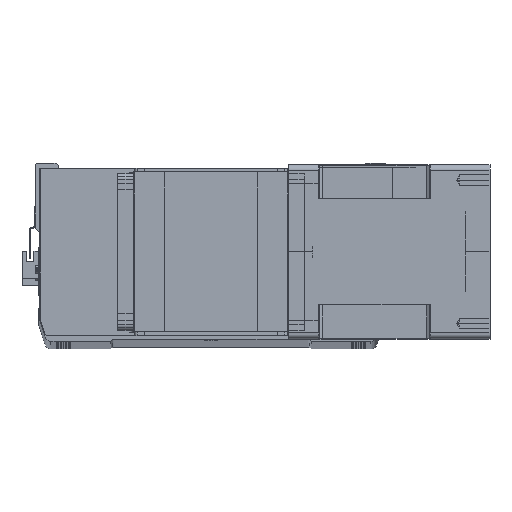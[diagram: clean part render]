
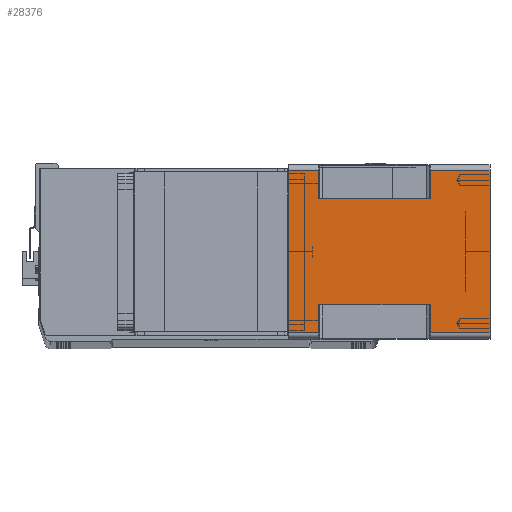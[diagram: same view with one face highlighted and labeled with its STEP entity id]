
A CAD part, top view. The second image highlights one B-rep face of the part: STEP entity #28376.
In plain terms, the highlighted planar face has unit normal (0, 0, 1) as drawn and (1, 0, 0) by its records, which use the part's own axes.
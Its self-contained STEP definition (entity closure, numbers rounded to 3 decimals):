
#151 = LINE ( 'NONE', #32093, #13390 ) ;
#681 = ORIENTED_EDGE ( 'NONE', *, *, #27575, .T. ) ;
#885 = LINE ( 'NONE', #24775, #22487 ) ;
#951 = LINE ( 'NONE', #18592, #22554 ) ;
#1526 = DIRECTION ( 'NONE',  ( 0., -1., 0. ) ) ;
#3060 = ORIENTED_EDGE ( 'NONE', *, *, #21409, .F. ) ;
#4213 = ORIENTED_EDGE ( 'NONE', *, *, #21226, .F. ) ;
#4635 = DIRECTION ( 'NONE',  ( 0., 0., 1. ) ) ;
#4649 = CARTESIAN_POINT ( 'NONE',  ( 71., -66., -24.5 ) ) ;
#4685 = CARTESIAN_POINT ( 'NONE',  ( 71., -43., -24.5 ) ) ;
#4722 = LINE ( 'NONE', #31937, #15279 ) ;
#5395 = CARTESIAN_POINT ( 'NONE',  ( 71., -66., -115.5 ) ) ;
#5447 = CARTESIAN_POINT ( 'NONE',  ( 71., -43., -24.5 ) ) ;
#5587 = EDGE_CURVE ( 'NONE', #11986, #8713, #6573, .T. ) ;
#5776 = ORIENTED_EDGE ( 'NONE', *, *, #22933, .T. ) ;
#5819 = VERTEX_POINT ( 'NONE', #21491 ) ;
#5873 = DIRECTION ( 'NONE',  ( 1., 0., 0. ) ) ;
#6573 = LINE ( 'NONE', #19817, #20252 ) ;
#7125 = DIRECTION ( 'NONE',  ( 0., 0., -1. ) ) ;
#7510 = EDGE_CURVE ( 'NONE', #14500, #11339, #18738, .T. ) ;
#8312 = VERTEX_POINT ( 'NONE', #22001 ) ;
#8713 = VERTEX_POINT ( 'NONE', #27787 ) ;
#8877 = ORIENTED_EDGE ( 'NONE', *, *, #13587, .F. ) ;
#9205 = CARTESIAN_POINT ( 'NONE',  ( 71., -66., -164. ) ) ;
#9512 = ORIENTED_EDGE ( 'NONE', *, *, #22769, .T. ) ;
#10054 = AXIS2_PLACEMENT_3D ( 'NONE', #31453, #5873, #28350 ) ;
#10241 = LINE ( 'NONE', #12324, #12908 ) ;
#10442 = CARTESIAN_POINT ( 'NONE',  ( 71., -43., -115.5 ) ) ;
#10918 = CARTESIAN_POINT ( 'NONE',  ( 71., 43., -115.5 ) ) ;
#10945 = LINE ( 'NONE', #5447, #27632 ) ;
#11339 = VERTEX_POINT ( 'NONE', #5395 ) ;
#11914 = ORIENTED_EDGE ( 'NONE', *, *, #5587, .T. ) ;
#11986 = VERTEX_POINT ( 'NONE', #26326 ) ;
#11994 = CARTESIAN_POINT ( 'NONE',  ( 71., 66., -115.5 ) ) ;
#12036 = VERTEX_POINT ( 'NONE', #11994 ) ;
#12324 = CARTESIAN_POINT ( 'NONE',  ( 71., -66., -24.5 ) ) ;
#12908 = VECTOR ( 'NONE', #29632, 1000. ) ;
#13390 = VECTOR ( 'NONE', #7125, 1000. ) ;
#13587 = EDGE_CURVE ( 'NONE', #5819, #25467, #151, .T. ) ;
#14500 = VERTEX_POINT ( 'NONE', #18251 ) ;
#15279 = VECTOR ( 'NONE', #23212, 1000. ) ;
#15985 = DIRECTION ( 'NONE',  ( 0., 0., 1. ) ) ;
#16787 = CARTESIAN_POINT ( 'NONE',  ( 71., 66., -164. ) ) ;
#17552 = VECTOR ( 'NONE', #22130, 1000. ) ;
#17559 = EDGE_CURVE ( 'NONE', #32492, #11339, #31988, .T. ) ;
#18098 = VERTEX_POINT ( 'NONE', #4685 ) ;
#18251 = CARTESIAN_POINT ( 'NONE',  ( 71., -66., -164. ) ) ;
#18412 = CARTESIAN_POINT ( 'NONE',  ( 71., 43., -115.5 ) ) ;
#18592 = CARTESIAN_POINT ( 'NONE',  ( 71., 66., -164. ) ) ;
#18663 = VECTOR ( 'NONE', #20636, 1000. ) ;
#18738 = LINE ( 'NONE', #36491, #35018 ) ;
#19817 = CARTESIAN_POINT ( 'NONE',  ( 71., 66., -164. ) ) ;
#19944 = VERTEX_POINT ( 'NONE', #16787 ) ;
#20252 = VECTOR ( 'NONE', #31132, 1000. ) ;
#20636 = DIRECTION ( 'NONE',  ( 0., 1., 0. ) ) ;
#21226 = EDGE_CURVE ( 'NONE', #8312, #8713, #21463, .T. ) ;
#21409 = EDGE_CURVE ( 'NONE', #32492, #18098, #4722, .T. ) ;
#21463 = LINE ( 'NONE', #35948, #17552 ) ;
#21491 = CARTESIAN_POINT ( 'NONE',  ( 71., 43., -24.5 ) ) ;
#21860 = VECTOR ( 'NONE', #33031, 1000. ) ;
#22001 = CARTESIAN_POINT ( 'NONE',  ( 71., -66., 0. ) ) ;
#22130 = DIRECTION ( 'NONE',  ( 0., 1., 0. ) ) ;
#22487 = VECTOR ( 'NONE', #4635, 1000. ) ;
#22554 = VECTOR ( 'NONE', #15985, 1000. ) ;
#22744 = ORIENTED_EDGE ( 'NONE', *, *, #25758, .T. ) ;
#22769 = EDGE_CURVE ( 'NONE', #5819, #11986, #10241, .T. ) ;
#22933 = EDGE_CURVE ( 'NONE', #19944, #12036, #951, .T. ) ;
#23212 = DIRECTION ( 'NONE',  ( 0., 0., 1. ) ) ;
#24632 = CARTESIAN_POINT ( 'NONE',  ( 71., -66., -115.5 ) ) ;
#24775 = CARTESIAN_POINT ( 'NONE',  ( 71., -66., -164. ) ) ;
#25100 = DIRECTION ( 'NONE',  ( 0., 1., 0. ) ) ;
#25149 = VECTOR ( 'NONE', #1526, 1000. ) ;
#25467 = VERTEX_POINT ( 'NONE', #10918 ) ;
#25758 = EDGE_CURVE ( 'NONE', #12036, #25467, #30919, .T. ) ;
#26326 = CARTESIAN_POINT ( 'NONE',  ( 71., 66., -24.5 ) ) ;
#27575 = EDGE_CURVE ( 'NONE', #14500, #19944, #28285, .T. ) ;
#27632 = VECTOR ( 'NONE', #25100, 1000. ) ;
#27787 = CARTESIAN_POINT ( 'NONE',  ( 71., 66., 0. ) ) ;
#28285 = LINE ( 'NONE', #9205, #18663 ) ;
#28350 = DIRECTION ( 'NONE',  ( 0., 1., 0. ) ) ;
#28376 = ADVANCED_FACE ( 'NONE', ( #32184 ), #31212, .T. ) ;
#29632 = DIRECTION ( 'NONE',  ( 0., 1., 0. ) ) ;
#29754 = ORIENTED_EDGE ( 'NONE', *, *, #34072, .F. ) ;
#30628 = EDGE_LOOP ( 'NONE', ( #3060, #35470, #36009, #681, #5776, #22744, #8877, #9512, #11914, #4213, #29754, #33724 ) ) ;
#30919 = LINE ( 'NONE', #18412, #25149 ) ;
#30938 = DIRECTION ( 'NONE',  ( 0., 0., 1. ) ) ;
#31132 = DIRECTION ( 'NONE',  ( 0., 0., 1. ) ) ;
#31212 = PLANE ( 'NONE',  #10054 ) ;
#31229 = VERTEX_POINT ( 'NONE', #4649 ) ;
#31453 = CARTESIAN_POINT ( 'NONE',  ( 71., -66., -164. ) ) ;
#31937 = CARTESIAN_POINT ( 'NONE',  ( 71., -43., -164. ) ) ;
#31988 = LINE ( 'NONE', #24632, #21860 ) ;
#32093 = CARTESIAN_POINT ( 'NONE',  ( 71., 43., -164. ) ) ;
#32184 = FACE_OUTER_BOUND ( 'NONE', #30628, .T. ) ;
#32492 = VERTEX_POINT ( 'NONE', #10442 ) ;
#33031 = DIRECTION ( 'NONE',  ( 0., -1., 0. ) ) ;
#33724 = ORIENTED_EDGE ( 'NONE', *, *, #36382, .T. ) ;
#34072 = EDGE_CURVE ( 'NONE', #31229, #8312, #885, .T. ) ;
#35018 = VECTOR ( 'NONE', #30938, 1000. ) ;
#35470 = ORIENTED_EDGE ( 'NONE', *, *, #17559, .T. ) ;
#35948 = CARTESIAN_POINT ( 'NONE',  ( 71., -66., 0. ) ) ;
#36009 = ORIENTED_EDGE ( 'NONE', *, *, #7510, .F. ) ;
#36382 = EDGE_CURVE ( 'NONE', #31229, #18098, #10945, .T. ) ;
#36491 = CARTESIAN_POINT ( 'NONE',  ( 71., -66., -164. ) ) ;
